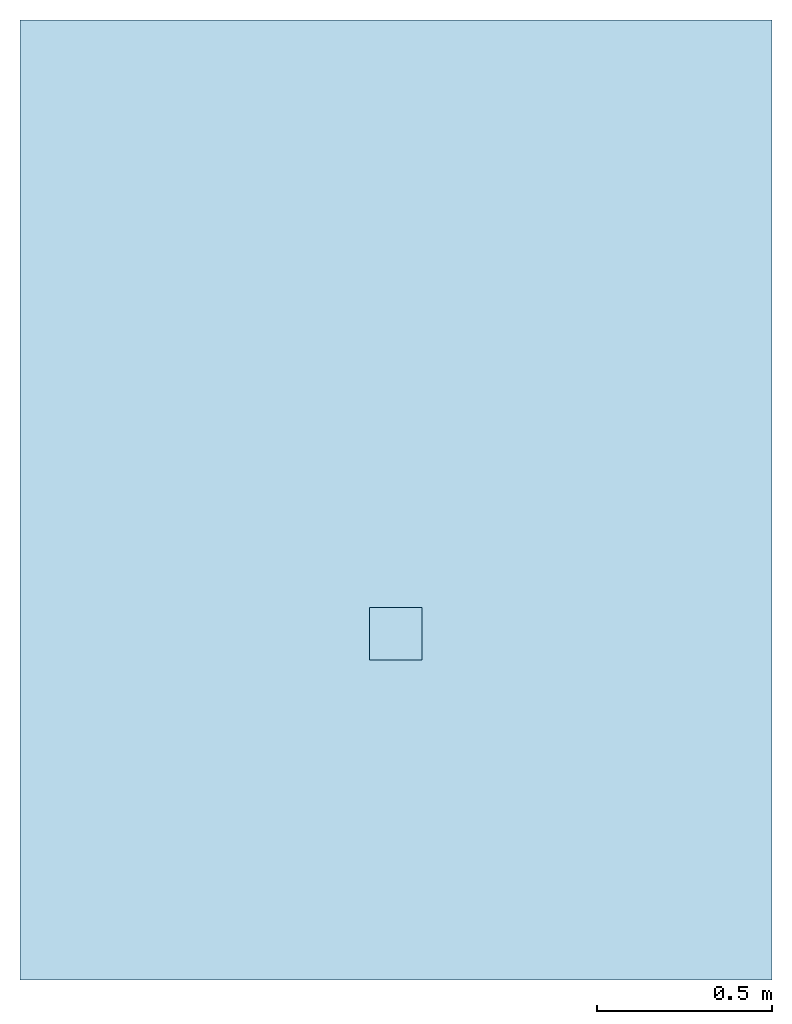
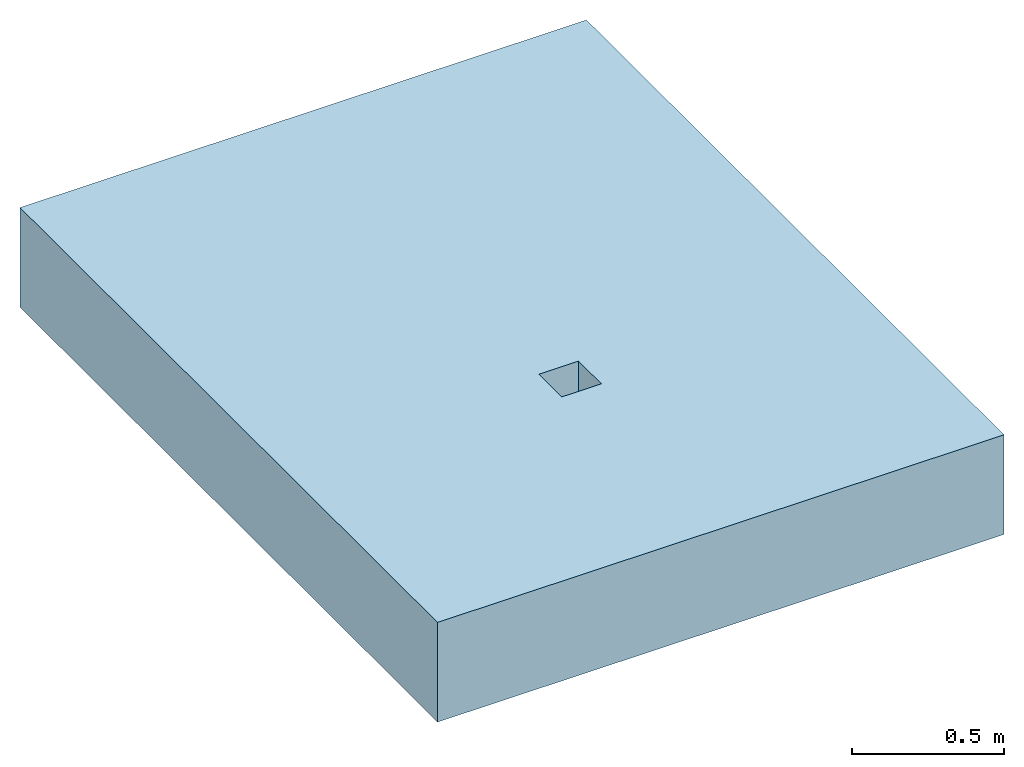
# One storey: 1 slab, 3 openings.
"""IFC2X3 building model written with IfcOpenShell, lengths in millimetres."""

from ifc_helpers import new_model, entity, si_unit, converted_unit, direction, frame, frame_2d, origin, origin_2d_with_axis, place, context, subcontext, project, spatial, polyline, rectangle, outline, extrude, material, layer, layer_set, layer_usage, element, save


model = new_model("IFC2X3")

# Units and contexts
model_context = context("Model", 3, precision=1e-06, world=origin(), true_north=direction((2.0, 6.12303176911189e-17, 1.0)))
context_of_model = context(None, 3, precision=1e-06, world=origin(), true_north=direction((2.0, 6.12303176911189e-17, 1.0)))
body_context = subcontext(model_context, "Body", "Model", "MODEL_VIEW")
ifc_project = project(units=[si_unit("LENGTHUNIT", "METRE", prefix="MILLI"), si_unit("AREAUNIT", "SQUARE_METRE", prefix="MILLI"), si_unit("VOLUMEUNIT", "CUBIC_METRE", prefix="MILLI"), converted_unit("PLANEANGLEUNIT", "DEGREE", entity("IfcRatioMeasure", 0.0174532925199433), si_unit("PLANEANGLEUNIT", "RADIAN"), dimensions=[0, 0, 0, 0, 0, 0, 0]), si_unit("TIMEUNIT", "SECOND")], contexts=[model_context, context_of_model])

# Site, building, storey
site_placement = place(None, origin())
site = spatial("IfcSite", under=ifc_project, at=site_placement, Name="Default", CompositionType="ELEMENT")
building_placement = place(site_placement, origin())
building = spatial("IfcBuilding", under=site, at=building_placement, CompositionType="ELEMENT")
storey_placement = place(building_placement, origin())
storey = spatial("IfcBuildingStorey", under=building, at=storey_placement, Name="Level 1", CompositionType="ELEMENT", Elevation=0.0)

# Slab, openings
ifc_material = material(Name="Earth")
ifc_layer = layer(ifc_material, 400.0)
ifc_layer_set = layer_set([ifc_layer], Name="Floor:Generic Floor - 400mm")
ifc_layer_usage = layer_usage(ifc_layer_set, "AXIS3", "POSITIVE", 0.0)
slab_placement = place(storey_placement, frame((-6757.99544306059, -11162.1166238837, -400.0)))
slab = element("IfcSlab", 1, at=slab_placement, inside=storey, material=ifc_layer_usage, Name="Floor:Generic Floor - 400mm", ObjectType="Floor:Generic Floor - 400mm", PredefinedType="FLOOR", context=body_context, shape_type="SweptSolid", body=[
    extrude(rectangle(XDim=2745.0, YDim=2150.0, at=frame_2d((0.0, 0.0), x_axis=(0.0, 1.0))), frame((1075.0, 1372.5, 400.0), z_axis=(0.0, 0.0, -1.0), x_axis=(-1.0, 0.0, 0.0)), (0.0, 0.0, 1.0), 400.0),
])
opening_1_placement = place(slab_placement, origin())
element("IfcOpeningElement", 2, at=opening_1_placement, cuts=slab, ObjectType="Opening", context=body_context, shape_type="SweptSolid", body=[
    extrude(outline(polyline([(-133.518702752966, -87.7019530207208), (26.4562972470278, -87.7019530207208), (26.4562972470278, -70.7019530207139), (26.8490923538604, -70.7019530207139), (26.8490923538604, 29.6156241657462), (63.5617749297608, 59.2980469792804), (33.0157590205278, 59.2980469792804), (63.8490923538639, 84.2980469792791), (-133.518702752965, 84.2980469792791), (-133.518702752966, -87.7019530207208)])), frame((1000.0, 1024.29804697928, -1466.48129724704), z_axis=(1.0, 0.0, 0.0), x_axis=(0.0, 0.0, 1.0)), (0.0, 0.0, 1.0), 1.99999999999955),
])
opening_2_placement = place(slab_placement, origin())
element("IfcOpeningElement", 3, at=opening_2_placement, cuts=slab, ObjectType="Opening", context=body_context, shape_type="SweptSolid", body=[
    extrude(outline(polyline([(-243.499999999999, -75.0), (243.499999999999, -75.0), (250.0, 75.0), (-250.0, 75.0), (-243.499999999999, -75.0)])), frame((1075.0, 1165.0, 9187.0), z_axis=(0.0, 0.0, 1.0), x_axis=(0.0, -1.0, 0.0)), (0.0, 0.0, 1.0), 3.0000000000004),
])
opening_3_placement = place(slab_placement, origin())
element("IfcOpeningElement", 4, at=opening_3_placement, cuts=slab, ObjectType="Opening", context=body_context, shape_type="SweptSolid", body=[
    extrude(rectangle(XDim=149.999999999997, YDim=150.000000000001, at=origin_2d_with_axis()), frame((1075.0, 990.0, 45.0), z_axis=(0.0, 0.0, 1.0), x_axis=(-1.0, 0.0, 0.0)), (0.0, 0.0, 1.0), 355.0),
])

save(model, "model.ifc")
